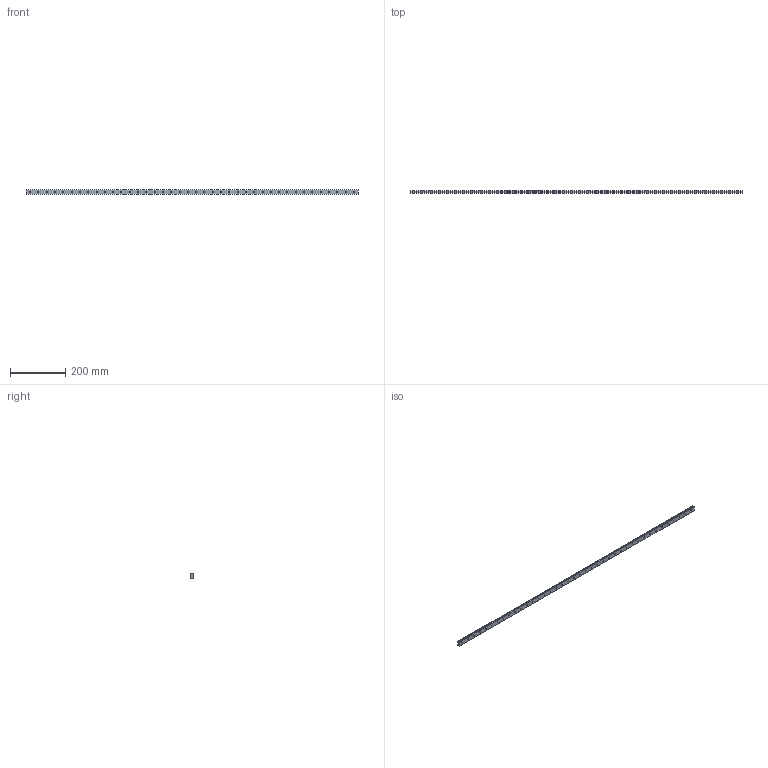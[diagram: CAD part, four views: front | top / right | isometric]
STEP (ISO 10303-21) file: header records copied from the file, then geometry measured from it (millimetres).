
FILE_DESCRIPTION(/* description */ ('STEP AP214'),/* implementation_level */ '2;1');
FILE_NAME(/* name */ 'SRS9W-1200LM(GK) RAIL(15)',/* time_stamp */ '2023-06-01T09:57:12+02:00',/* author */ ('License CC BY-ND 4.0'),/* organization */ ('CADENAS'),/* preprocessor_version */ 'ST-DEVELOPER v19.3',/* originating_system */ 'PARTsolutions',/* authorisation */ ' ');
FILE_SCHEMA (('AUTOMOTIVE_DESIGN {1 0 10303 214 3 1 1}'));
Length unit declared in the file: millimetre
Products named in the file (1): SRS9W-1200LM(GK) RAIL(15)
Bounding box: 1200 x 7.5 x 18 mm (x, y, z)
Volume: 153849.1 mm3; surface area: 65497.8 mm2
Topology: 1 solids, 1 shells, 138 faces, 288 edges, 192 vertices
Faces by surface type: cylinder 86, plane 52
Full cylindrical faces by diameter (mm): 3.5 x40, 6 x40
Entity records: 3554 total; most frequent: DIRECTION 658, CARTESIAN_POINT 539, ORIENTED_EDGE 416, EDGE_LOOP 338, FACE_BOUND 338, AXIS2_PLACEMENT_3D 311, EDGE_CURVE 208, VERTEX_POINT 192
